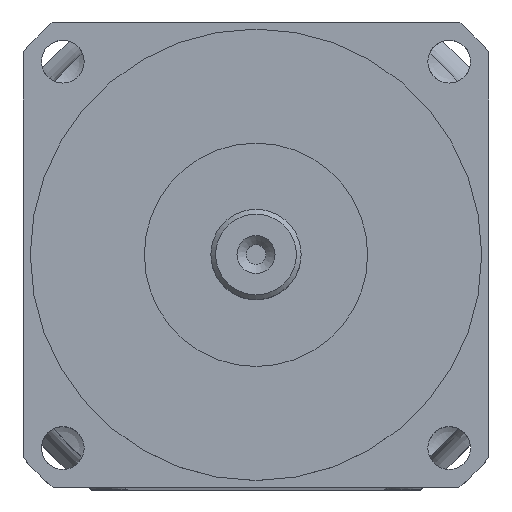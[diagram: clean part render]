
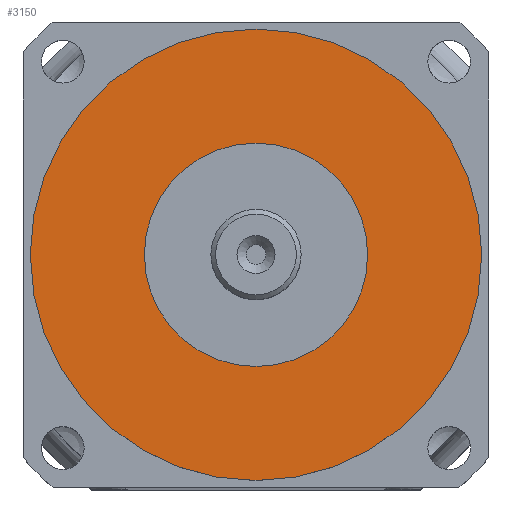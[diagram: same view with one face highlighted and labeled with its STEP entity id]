
A CAD part, top view. The second image highlights one B-rep face of the part: STEP entity #3150.
In plain terms, the highlighted planar face has unit normal (0, 0, 1).
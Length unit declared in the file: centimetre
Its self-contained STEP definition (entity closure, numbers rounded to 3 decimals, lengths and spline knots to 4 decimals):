
#925=VERTEX_POINT('',#7268);
#927=VERTEX_POINT('',#7273);
#1285=EDGE_CURVE('',#925,#925,#3749,.T.);
#1287=EDGE_CURVE('',#927,#927,#3751,.T.);
#1826=ORIENTED_EDGE('',*,*,#1287,.F.);
#1827=ORIENTED_EDGE('',*,*,#1285,.F.);
#2649=EDGE_LOOP('',(#1826));
#2650=EDGE_LOOP('',(#1827));
#2907=FACE_BOUND('',#2649,.T.);
#2908=FACE_BOUND('',#2650,.T.);
#3150=ADVANCED_FACE('',(#2907,#2908),#5846,.T.);
#3749=CIRCLE('',#5248,4.75);
#3751=CIRCLE('',#5251,2.35);
#5248=AXIS2_PLACEMENT_3D('',#7267,#9161,#9162);
#5251=AXIS2_PLACEMENT_3D('',#7272,#9167,#9168);
#5253=AXIS2_PLACEMENT_3D('',#7276,#9171,$);
#5846=PLANE('',#5253);
#7267=CARTESIAN_POINT('',(0.,0.,1.6));
#7268=CARTESIAN_POINT('',(4.75,0.,1.6));
#7272=CARTESIAN_POINT('',(0.,0.,1.6));
#7273=CARTESIAN_POINT('',(2.35,0.,1.6));
#7276=CARTESIAN_POINT('',(0.,0.,1.6));
#9161=DIRECTION('',(0.,0.,-1.));
#9162=DIRECTION('',(4.75,0.,0.));
#9167=DIRECTION('',(0.,0.,1.));
#9168=DIRECTION('',(2.35,0.,0.));
#9171=DIRECTION('',(0.,0.,1.));
